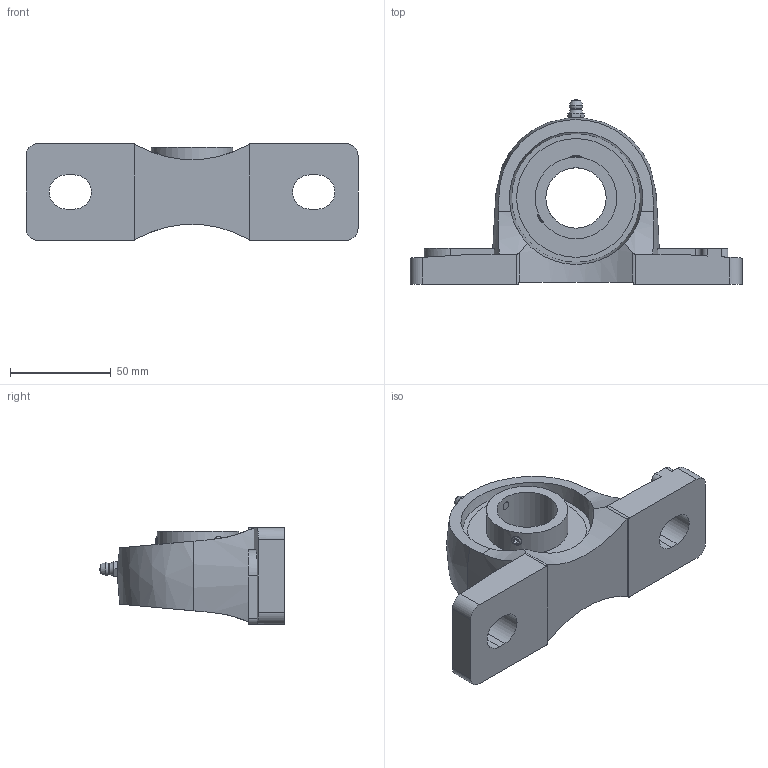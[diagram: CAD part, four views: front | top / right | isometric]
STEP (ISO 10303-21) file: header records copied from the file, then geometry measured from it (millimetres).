
FILE_DESCRIPTION(/* description */ (''),/* implementation_level */ '2;1');
FILE_NAME(/* name */ '\\192.168.10.238\j-cad-d-base\00.3DCADデータ作成フォルダ\08.アルミハウジング\v\MUCAP200V\MUCAP206V-J.stp',/* time_stamp */ '2021-02-22T09:08:47+09:00',/* author */ ('UGijyutu_200703'),/* organization */ (''),/* preprocessor_version */ 'ST-DEVELOPER v18',/* originating_system */ 'Autodesk Inventor 2020',/* authorisation */ '');
FILE_SCHEMA (('AUTOMOTIVE_DESIGN { 1 0 10303 214 3 1 1 }'));
Length unit declared in the file: millimetre
Products named in the file (4): MUCAP206V-J; AP206; 1/4-28UNF-2A; MUC206 V
Assembly tree (3 placements, depth 2):
  MUCAP206V-J
    AP206
    1/4-28UNF-2A
    MUC206 V
Bounding box: 165 x 91.8 x 48 mm (x, y, z)
Volume: 210085.7 mm3; surface area: 49336.9 mm2
Topology: 3 solids, 3 shells, 133 faces, 357 edges, 239 vertices
Faces by surface type: plane 68, cylinder 41, cone 15, sphere 4, bspline 3, torus 2
Full cylindrical faces by diameter (mm): 5 x2, 5.359 x1, 6.35 x1, 30 x1, 40.5 x2
Entity records: 5375 total; most frequent: CARTESIAN_POINT 1838, ORIENTED_EDGE 712, DIRECTION 688, EDGE_CURVE 356, AXIS2_PLACEMENT_3D 261, VERTEX_POINT 239, LINE 166, VECTOR 166
